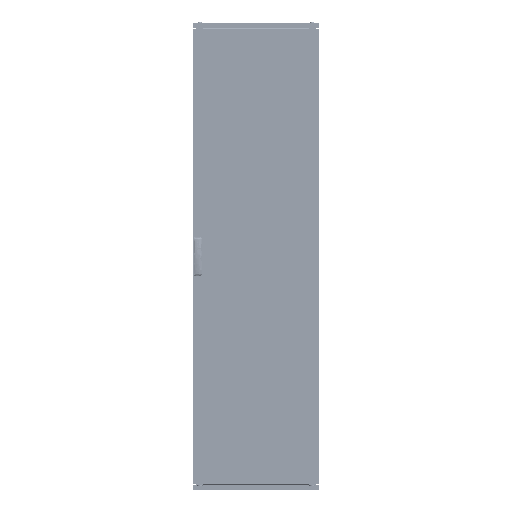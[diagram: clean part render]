
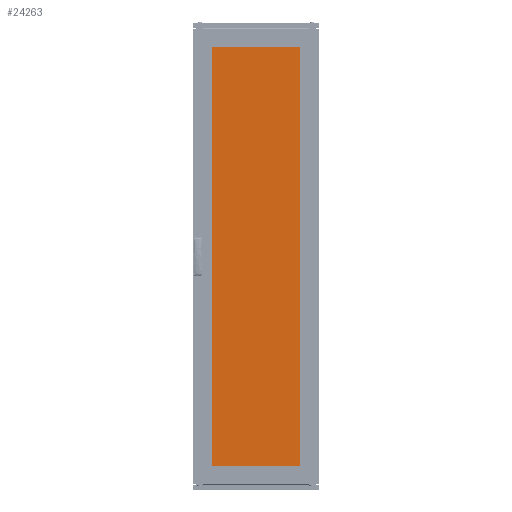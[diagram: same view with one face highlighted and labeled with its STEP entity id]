
A CAD part, top view. The second image highlights one B-rep face of the part: STEP entity #24263.
In plain terms, the highlighted planar face has unit normal (0, 0, 1).
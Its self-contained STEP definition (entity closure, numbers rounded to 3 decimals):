
#1861 = VECTOR ( 'NONE', #218843, 1000. ) ;
#8862 = VERTEX_POINT ( 'NONE', #128303 ) ;
#14838 = AXIS2_PLACEMENT_3D ( 'NONE', #197480, #67329, #180557 ) ;
#24263 = ADVANCED_FACE ( 'NONE', ( #179364 ), #234924, .F. ) ;
#28741 = LINE ( 'NONE', #192664, #96145 ) ;
#43852 = LINE ( 'NONE', #193244, #224003 ) ;
#45039 = VECTOR ( 'NONE', #201717, 1000. ) ;
#67329 = DIRECTION ( 'NONE',  ( 0., 0., -1. ) ) ;
#72534 = EDGE_CURVE ( 'NONE', #180316, #82904, #131716, .T. ) ;
#75792 = EDGE_CURVE ( 'NONE', #8862, #151251, #28741, .T. ) ;
#80762 = ORIENTED_EDGE ( 'NONE', *, *, #75792, .T. ) ;
#81157 = DIRECTION ( 'NONE',  ( 1., 0., 0. ) ) ;
#82904 = VERTEX_POINT ( 'NONE', #123617 ) ;
#88353 = ORIENTED_EDGE ( 'NONE', *, *, #193654, .T. ) ;
#96145 = VECTOR ( 'NONE', #215526, 1000. ) ;
#123617 = CARTESIAN_POINT ( 'NONE',  ( -230., -1010., 5. ) ) ;
#128303 = CARTESIAN_POINT ( 'NONE',  ( 230., -1010., 5. ) ) ;
#131716 = LINE ( 'NONE', #185996, #45039 ) ;
#137943 = CARTESIAN_POINT ( 'NONE',  ( 230., 1010., 5. ) ) ;
#143976 = LINE ( 'NONE', #146359, #1861 ) ;
#146359 = CARTESIAN_POINT ( 'NONE',  ( -230., 1010., 5. ) ) ;
#151251 = VERTEX_POINT ( 'NONE', #137943 ) ;
#156222 = CARTESIAN_POINT ( 'NONE',  ( -230., 1010., 5. ) ) ;
#163367 = EDGE_CURVE ( 'NONE', #82904, #8862, #43852, .T. ) ;
#166675 = ORIENTED_EDGE ( 'NONE', *, *, #72534, .T. ) ;
#172348 = ORIENTED_EDGE ( 'NONE', *, *, #163367, .T. ) ;
#179364 = FACE_OUTER_BOUND ( 'NONE', #216543, .T. ) ;
#180316 = VERTEX_POINT ( 'NONE', #156222 ) ;
#180557 = DIRECTION ( 'NONE',  ( -1., 0., 0. ) ) ;
#185996 = CARTESIAN_POINT ( 'NONE',  ( -230., -1010., 5. ) ) ;
#192664 = CARTESIAN_POINT ( 'NONE',  ( 230., -1010., 5. ) ) ;
#193244 = CARTESIAN_POINT ( 'NONE',  ( -230., -1010., 5. ) ) ;
#193654 = EDGE_CURVE ( 'NONE', #151251, #180316, #143976, .T. ) ;
#197480 = CARTESIAN_POINT ( 'NONE',  ( 0., 0., 5. ) ) ;
#201717 = DIRECTION ( 'NONE',  ( 0., -1., 0. ) ) ;
#215526 = DIRECTION ( 'NONE',  ( 0., 1., 0. ) ) ;
#216543 = EDGE_LOOP ( 'NONE', ( #80762, #88353, #166675, #172348 ) ) ;
#218843 = DIRECTION ( 'NONE',  ( -1., 0., 0. ) ) ;
#224003 = VECTOR ( 'NONE', #81157, 1000. ) ;
#234924 = PLANE ( 'NONE',  #14838 ) ;
